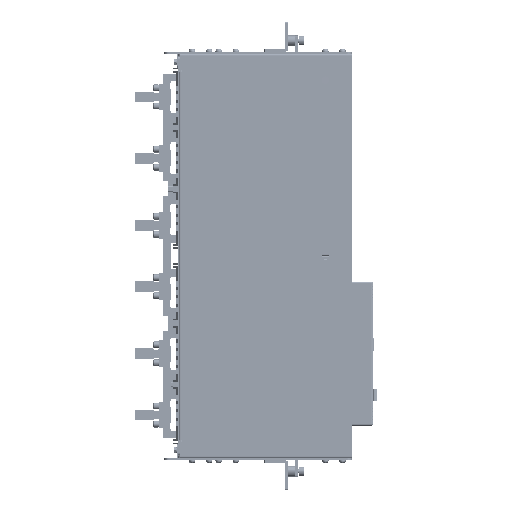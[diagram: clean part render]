
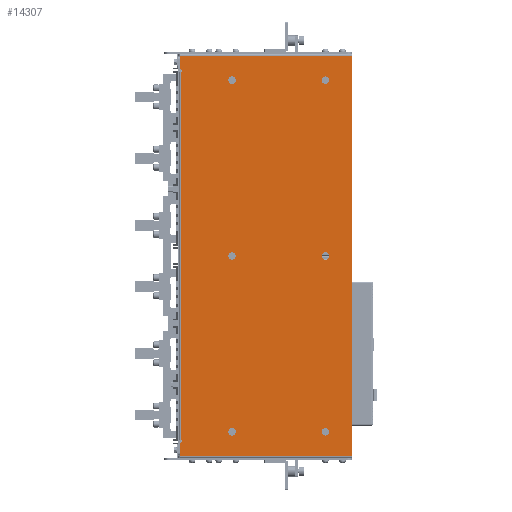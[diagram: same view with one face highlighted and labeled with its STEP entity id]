
A CAD part, front view. The second image highlights one B-rep face of the part: STEP entity #14307.
In plain terms, the highlighted planar face has unit normal (0, -1, 0).
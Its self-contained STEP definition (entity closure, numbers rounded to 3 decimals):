
#11965=DIRECTION('',(1.,0.,0.));
#11966=VECTOR('',#11965,752.4);
#11967=CARTESIAN_POINT('',(-559.8,-3.2,-160.9));
#11968=LINE('',#11967,#11966);
#12549=DIRECTION('',(1.,0.,0.));
#12550=VECTOR('',#12549,25.6);
#12551=CARTESIAN_POINT('',(-559.8,-3.2,160.9));
#12552=LINE('',#12551,#12550);
#12599=DIRECTION('',(1.,0.,0.));
#12600=VECTOR('',#12599,25.6);
#12601=CARTESIAN_POINT('',(167.,-3.2,160.9));
#12602=LINE('',#12601,#12600);
#12713=CARTESIAN_POINT('',(146.4,-3.2,64.1));
#12714=DIRECTION('',(0.,1.,0.));
#12715=DIRECTION('',(1.,0.,0.));
#12716=AXIS2_PLACEMENT_3D('',#12713,#12714,#12715);
#12718=CARTESIAN_POINT('',(146.4,-3.2,64.1));
#12719=DIRECTION('',(0.,1.,0.));
#12720=DIRECTION('',(-1.,0.,0.));
#12721=AXIS2_PLACEMENT_3D('',#12718,#12719,#12720);
#12723=CARTESIAN_POINT('',(-513.6,-3.2,64.1));
#12724=DIRECTION('',(0.,1.,0.));
#12725=DIRECTION('',(1.,0.,0.));
#12726=AXIS2_PLACEMENT_3D('',#12723,#12724,#12725);
#12728=CARTESIAN_POINT('',(-513.6,-3.2,64.1));
#12729=DIRECTION('',(0.,1.,0.));
#12730=DIRECTION('',(-1.,0.,0.));
#12731=AXIS2_PLACEMENT_3D('',#12728,#12729,#12730);
#12733=CARTESIAN_POINT('',(-183.6,-3.2,64.1));
#12734=DIRECTION('',(0.,1.,0.));
#12735=DIRECTION('',(1.,0.,0.));
#12736=AXIS2_PLACEMENT_3D('',#12733,#12734,#12735);
#12738=CARTESIAN_POINT('',(-183.6,-3.2,64.1));
#12739=DIRECTION('',(0.,1.,0.));
#12740=DIRECTION('',(-1.,0.,0.));
#12741=AXIS2_PLACEMENT_3D('',#12738,#12739,#12740);
#12743=CARTESIAN_POINT('',(146.4,-3.2,-110.9));
#12744=DIRECTION('',(0.,1.,0.));
#12745=DIRECTION('',(1.,0.,0.));
#12746=AXIS2_PLACEMENT_3D('',#12743,#12744,#12745);
#12748=CARTESIAN_POINT('',(146.4,-3.2,-110.9));
#12749=DIRECTION('',(0.,1.,0.));
#12750=DIRECTION('',(-1.,0.,0.));
#12751=AXIS2_PLACEMENT_3D('',#12748,#12749,#12750);
#12753=CARTESIAN_POINT('',(-183.6,-3.2,-110.9));
#12754=DIRECTION('',(0.,1.,0.));
#12755=DIRECTION('',(1.,0.,0.));
#12756=AXIS2_PLACEMENT_3D('',#12753,#12754,#12755);
#12758=CARTESIAN_POINT('',(-183.6,-3.2,-110.9));
#12759=DIRECTION('',(0.,1.,0.));
#12760=DIRECTION('',(-1.,0.,0.));
#12761=AXIS2_PLACEMENT_3D('',#12758,#12759,#12760);
#12763=CARTESIAN_POINT('',(-513.6,-3.2,-110.9));
#12764=DIRECTION('',(0.,1.,0.));
#12765=DIRECTION('',(1.,0.,0.));
#12766=AXIS2_PLACEMENT_3D('',#12763,#12764,#12765);
#12768=CARTESIAN_POINT('',(-513.6,-3.2,-110.9));
#12769=DIRECTION('',(0.,1.,0.));
#12770=DIRECTION('',(-1.,0.,0.));
#12771=AXIS2_PLACEMENT_3D('',#12768,#12769,#12770);
#12773=CARTESIAN_POINT('',(-534.2,-3.2,159.9));
#12774=DIRECTION('',(0.,-1.,0.));
#12775=DIRECTION('',(1.,0.,0.));
#12776=AXIS2_PLACEMENT_3D('',#12773,#12774,#12775);
#12778=DIRECTION('',(0.,0.,-1.));
#12779=VECTOR('',#12778,2.2);
#12780=CARTESIAN_POINT('',(-533.2,-3.2,159.9));
#12781=LINE('',#12780,#12779);
#12782=DIRECTION('',(-1.,0.,0.));
#12783=VECTOR('',#12782,4.);
#12784=CARTESIAN_POINT('',(-529.2,-3.2,157.7));
#12785=LINE('',#12784,#12783);
#12786=DIRECTION('',(1.,0.,0.));
#12787=VECTOR('',#12786,691.2);
#12788=CARTESIAN_POINT('',(-529.2,-3.2,160.4));
#12789=LINE('',#12788,#12787);
#12790=DIRECTION('',(-1.,0.,0.));
#12791=VECTOR('',#12790,4.);
#12792=CARTESIAN_POINT('',(166.,-3.2,157.7));
#12793=LINE('',#12792,#12791);
#12794=DIRECTION('',(0.,0.,-1.));
#12795=VECTOR('',#12794,2.2);
#12796=CARTESIAN_POINT('',(166.,-3.2,159.9));
#12797=LINE('',#12796,#12795);
#12798=CARTESIAN_POINT('',(167.,-3.2,159.9));
#12799=DIRECTION('',(0.,-1.,0.));
#12800=DIRECTION('',(0.,0.,1.));
#12801=AXIS2_PLACEMENT_3D('',#12798,#12799,#12800);
#12803=DIRECTION('',(0.,0.,-1.));
#12804=VECTOR('',#12803,321.8);
#12805=CARTESIAN_POINT('',(192.6,-3.2,160.9));
#12806=LINE('',#12805,#12804);
#12807=DIRECTION('',(0.,0.,-1.));
#12808=VECTOR('',#12807,321.8);
#12809=CARTESIAN_POINT('',(-559.8,-3.2,160.9));
#12810=LINE('',#12809,#12808);
#12872=DIRECTION('',(0.,0.,-1.));
#12873=VECTOR('',#12872,2.7);
#12874=CARTESIAN_POINT('',(-529.2,-3.2,160.4));
#12875=LINE('',#12874,#12873);
#12893=DIRECTION('',(0.,0.,1.));
#12894=VECTOR('',#12893,2.7);
#12895=CARTESIAN_POINT('',(162.,-3.2,157.7));
#12896=LINE('',#12895,#12894);
#13064=CARTESIAN_POINT('',(192.6,-3.2,-160.9));
#13066=VERTEX_POINT('',#13064);
#13067=CARTESIAN_POINT('',(192.6,-3.2,160.9));
#13068=VERTEX_POINT('',#13067);
#13071=CARTESIAN_POINT('',(-559.8,-3.2,-160.9));
#13073=VERTEX_POINT('',#13071);
#13077=CARTESIAN_POINT('',(-559.8,-3.2,160.9));
#13078=VERTEX_POINT('',#13077);
#13088=CARTESIAN_POINT('',(162.,-3.2,160.4));
#13090=VERTEX_POINT('',#13088);
#13091=CARTESIAN_POINT('',(-529.2,-3.2,160.4));
#13092=VERTEX_POINT('',#13091);
#13127=CARTESIAN_POINT('',(153.4,-3.2,64.1));
#13128=CARTESIAN_POINT('',(139.4,-3.2,64.1));
#13129=VERTEX_POINT('',#13127);
#13130=VERTEX_POINT('',#13128);
#13131=CARTESIAN_POINT('',(-506.6,-3.2,64.1));
#13132=CARTESIAN_POINT('',(-520.6,-3.2,64.1));
#13133=VERTEX_POINT('',#13131);
#13134=VERTEX_POINT('',#13132);
#13143=CARTESIAN_POINT('',(-176.6,-3.2,64.1));
#13144=CARTESIAN_POINT('',(-190.6,-3.2,64.1));
#13145=VERTEX_POINT('',#13143);
#13146=VERTEX_POINT('',#13144);
#13215=CARTESIAN_POINT('',(153.4,-3.2,-110.9));
#13216=CARTESIAN_POINT('',(139.4,-3.2,-110.9));
#13217=VERTEX_POINT('',#13215);
#13218=VERTEX_POINT('',#13216);
#13219=CARTESIAN_POINT('',(-176.6,-3.2,-110.9));
#13220=CARTESIAN_POINT('',(-190.6,-3.2,-110.9));
#13221=VERTEX_POINT('',#13219);
#13222=VERTEX_POINT('',#13220);
#13223=CARTESIAN_POINT('',(-506.6,-3.2,-110.9));
#13224=CARTESIAN_POINT('',(-520.6,-3.2,-110.9));
#13225=VERTEX_POINT('',#13223);
#13226=VERTEX_POINT('',#13224);
#13303=CARTESIAN_POINT('',(-529.2,-3.2,157.7));
#13304=CARTESIAN_POINT('',(-533.2,-3.2,157.7));
#13305=VERTEX_POINT('',#13303);
#13306=VERTEX_POINT('',#13304);
#13307=CARTESIAN_POINT('',(166.,-3.2,157.7));
#13308=CARTESIAN_POINT('',(162.,-3.2,157.7));
#13309=VERTEX_POINT('',#13307);
#13310=VERTEX_POINT('',#13308);
#13323=CARTESIAN_POINT('',(-533.2,-3.2,159.9));
#13324=VERTEX_POINT('',#13323);
#13325=CARTESIAN_POINT('',(-534.2,-3.2,160.9));
#13326=VERTEX_POINT('',#13325);
#13327=CARTESIAN_POINT('',(167.,-3.2,160.9));
#13328=CARTESIAN_POINT('',(166.,-3.2,159.9));
#13329=VERTEX_POINT('',#13327);
#13330=VERTEX_POINT('',#13328);
#14241=CARTESIAN_POINT('',(-563.5,-3.2,-160.9));
#14242=DIRECTION('',(0.,-1.,0.));
#14243=DIRECTION('',(1.,0.,0.));
#14244=AXIS2_PLACEMENT_3D('',#14241,#14242,#14243);
#14245=PLANE('',#14244);
#14246=ORIENTED_EDGE('',*,*,#14152,.F.);
#14248=ORIENTED_EDGE('',*,*,#14247,.T.);
#14250=ORIENTED_EDGE('',*,*,#14249,.F.);
#14252=ORIENTED_EDGE('',*,*,#14251,.F.);
#14254=ORIENTED_EDGE('',*,*,#14253,.T.);
#14256=ORIENTED_EDGE('',*,*,#14255,.F.);
#14258=ORIENTED_EDGE('',*,*,#14257,.F.);
#14260=ORIENTED_EDGE('',*,*,#14259,.F.);
#14262=ORIENTED_EDGE('',*,*,#14261,.F.);
#14263=ORIENTED_EDGE('',*,*,#14138,.T.);
#14265=ORIENTED_EDGE('',*,*,#14264,.T.);
#14266=ORIENTED_EDGE('',*,*,#13386,.F.);
#14268=ORIENTED_EDGE('',*,*,#14267,.F.);
#14269=ORIENTED_EDGE('',*,*,#14107,.T.);
#14270=EDGE_LOOP('',(#14246,#14248,#14250,#14252,#14254,#14256,#14258,#14260,
#14262,#14263,#14265,#14266,#14268,#14269));
#14271=FACE_OUTER_BOUND('',#14270,.F.);
#14272=ORIENTED_EDGE('',*,*,#14231,.F.);
#14274=ORIENTED_EDGE('',*,*,#14273,.F.);
#14275=EDGE_LOOP('',(#14272,#14274));
#14276=FACE_BOUND('',#14275,.F.);
#14278=ORIENTED_EDGE('',*,*,#14277,.F.);
#14280=ORIENTED_EDGE('',*,*,#14279,.F.);
#14281=EDGE_LOOP('',(#14278,#14280));
#14282=FACE_BOUND('',#14281,.F.);
#14284=ORIENTED_EDGE('',*,*,#14283,.F.);
#14286=ORIENTED_EDGE('',*,*,#14285,.F.);
#14287=EDGE_LOOP('',(#14284,#14286));
#14288=FACE_BOUND('',#14287,.F.);
#14290=ORIENTED_EDGE('',*,*,#14289,.F.);
#14292=ORIENTED_EDGE('',*,*,#14291,.F.);
#14293=EDGE_LOOP('',(#14290,#14292));
#14294=FACE_BOUND('',#14293,.F.);
#14296=ORIENTED_EDGE('',*,*,#14295,.F.);
#14298=ORIENTED_EDGE('',*,*,#14297,.F.);
#14299=EDGE_LOOP('',(#14296,#14298));
#14300=FACE_BOUND('',#14299,.F.);
#14302=ORIENTED_EDGE('',*,*,#14301,.F.);
#14304=ORIENTED_EDGE('',*,*,#14303,.F.);
#14305=EDGE_LOOP('',(#14302,#14304));
#14306=FACE_BOUND('',#14305,.F.);
#14307=ADVANCED_FACE('',(#14271,#14276,#14282,#14288,#14294,#14300,#14306),
#14245,.T.);
#12717=CIRCLE('',#12716,7.);
#12722=CIRCLE('',#12721,7.);
#12727=CIRCLE('',#12726,7.);
#12732=CIRCLE('',#12731,7.);
#12737=CIRCLE('',#12736,7.);
#12742=CIRCLE('',#12741,7.);
#12747=CIRCLE('',#12746,7.);
#12752=CIRCLE('',#12751,7.);
#12757=CIRCLE('',#12756,7.);
#12762=CIRCLE('',#12761,7.);
#12767=CIRCLE('',#12766,7.);
#12772=CIRCLE('',#12771,7.);
#12777=CIRCLE('',#12776,1.);
#12802=CIRCLE('',#12801,1.);
#13386=EDGE_CURVE('',#13073,#13066,#11968,.T.);
#14107=EDGE_CURVE('',#13078,#13326,#12552,.T.);
#14138=EDGE_CURVE('',#13329,#13068,#12602,.T.);
#14152=EDGE_CURVE('',#13324,#13326,#12777,.T.);
#14231=EDGE_CURVE('',#13129,#13130,#12717,.T.);
#14247=EDGE_CURVE('',#13324,#13306,#12781,.T.);
#14249=EDGE_CURVE('',#13305,#13306,#12785,.T.);
#14251=EDGE_CURVE('',#13092,#13305,#12875,.T.);
#14253=EDGE_CURVE('',#13092,#13090,#12789,.T.);
#14255=EDGE_CURVE('',#13310,#13090,#12896,.T.);
#14257=EDGE_CURVE('',#13309,#13310,#12793,.T.);
#14259=EDGE_CURVE('',#13330,#13309,#12797,.T.);
#14261=EDGE_CURVE('',#13329,#13330,#12802,.T.);
#14264=EDGE_CURVE('',#13068,#13066,#12806,.T.);
#14267=EDGE_CURVE('',#13078,#13073,#12810,.T.);
#14273=EDGE_CURVE('',#13130,#13129,#12722,.T.);
#14277=EDGE_CURVE('',#13133,#13134,#12727,.T.);
#14279=EDGE_CURVE('',#13134,#13133,#12732,.T.);
#14283=EDGE_CURVE('',#13145,#13146,#12737,.T.);
#14285=EDGE_CURVE('',#13146,#13145,#12742,.T.);
#14289=EDGE_CURVE('',#13217,#13218,#12747,.T.);
#14291=EDGE_CURVE('',#13218,#13217,#12752,.T.);
#14295=EDGE_CURVE('',#13221,#13222,#12757,.T.);
#14297=EDGE_CURVE('',#13222,#13221,#12762,.T.);
#14301=EDGE_CURVE('',#13225,#13226,#12767,.T.);
#14303=EDGE_CURVE('',#13226,#13225,#12772,.T.);
